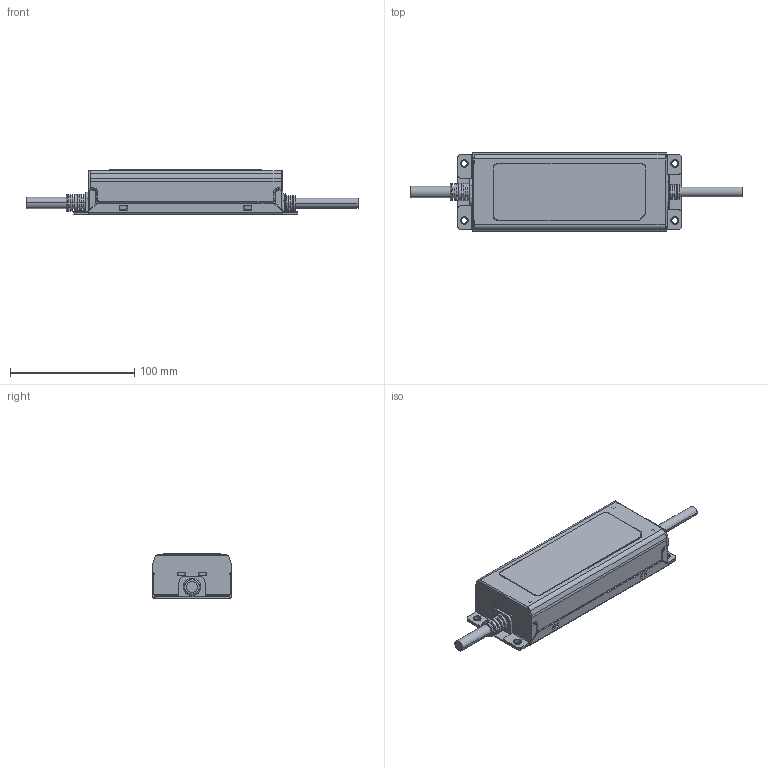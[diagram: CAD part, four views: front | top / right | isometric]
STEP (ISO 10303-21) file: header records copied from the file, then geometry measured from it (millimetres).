
FILE_DESCRIPTION(('Creo Elements/Direct Modeling STEP Export'),'2;1');
FILE_NAME('ELG-75-A.stp','2016-04-07T16:31:12',(''),(''),'PTC Creo Elements/Direct Modeling STEP processor for AP214 (Solid Model)','PTC Creo Elements/Direct Modeling 19.0 09-May-2014 (C) Parametric Technology GmbH','');
FILE_SCHEMA(('AUTOMOTIVE_DESIGN { 1 0 10303 214 1 1 1 1 }'));
Length unit declared in the file: millimetre
Products named in the file (6): OP2; IP.1.1; op.1; 243A-T; pcb; ELG-75-A
Assembly tree (5 placements, depth 2):
  ELG-75-A
    pcb
    243A-T
    op.1
    IP.1.1
    OP2
Bounding box: 266.8 x 63.13 x 35.5 mm (x, y, z)
Volume: 74575.2 mm3; surface area: 102003.7 mm2
Topology: 5 solids, 5 shells, 994 faces, 2644 edges, 1710 vertices
Faces by surface type: plane 657, cylinder 269, torus 50, bspline 12, cone 4, sphere 2
Entity records: 34724 total; most frequent: CARTESIAN_POINT 10099, ORIENTED_EDGE 5284, DIRECTION 4830, EDGE_CURVE 2642, VECTOR 1906, LINE 1906, VERTEX_POINT 1710, AXIS2_PLACEMENT_3D 1462
